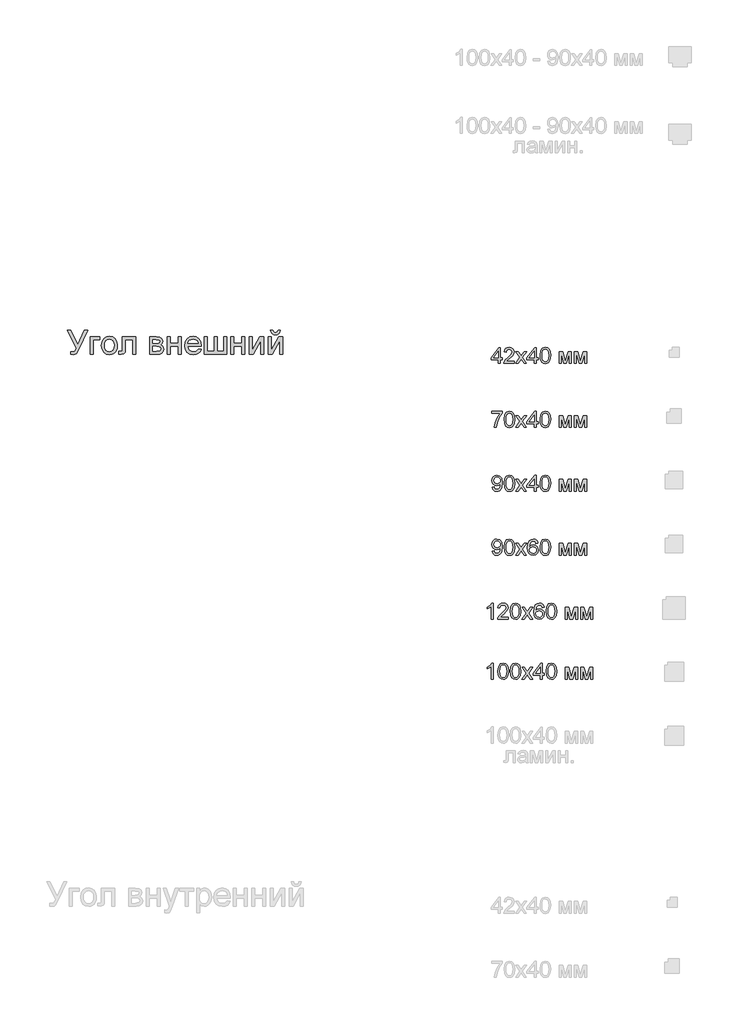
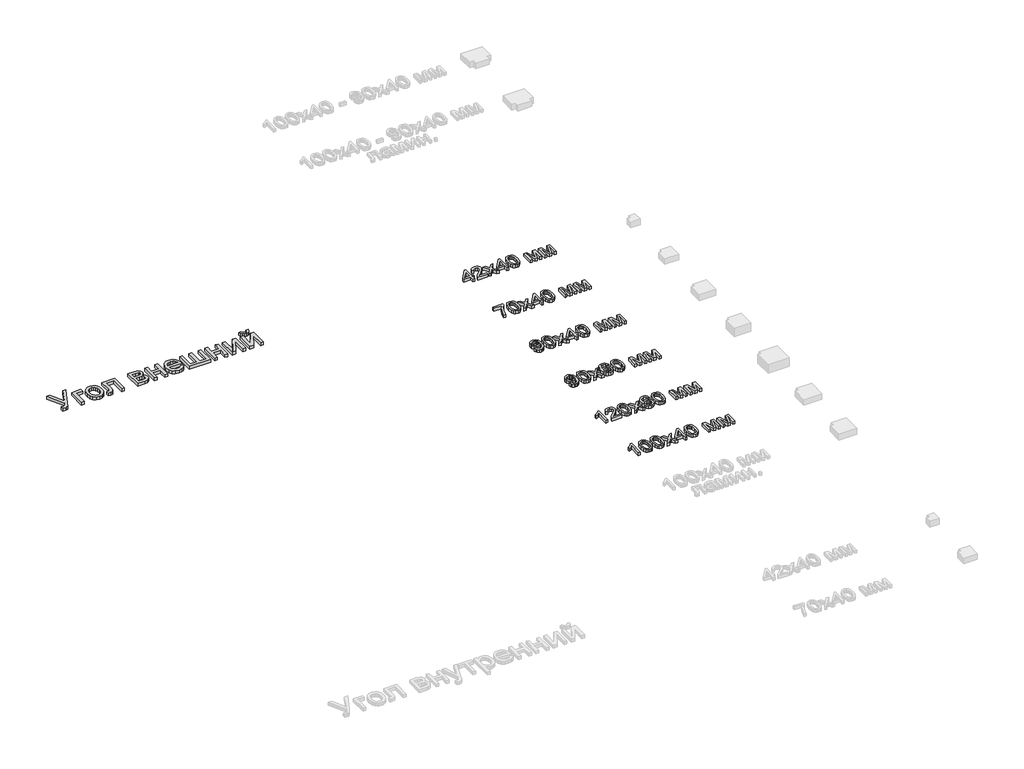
# One storey, part 13 of 21: 7 proxies.
"""IFC4 building model written with IfcOpenShell, lengths in millimetres."""

from ifc_helpers import new_model, si_unit, origin, origin_with_axes, place, context, project, spatial, polyline, outline, extrude, element, save

model = new_model("IFC4")

# Units and contexts
model_context = context("Model", 3, world=origin())
ifc_project = project(units=[si_unit("LENGTHUNIT", "METRE", prefix="MILLI")], contexts=[model_context])

# Site, building, storey
site = spatial("IfcSite", under=ifc_project)
building = spatial("IfcBuilding", under=site)
storey = spatial("IfcBuildingStorey", under=building, Name="Этаж 01", Elevation=0.0)

# Proxies
placement = place(None, origin())
element("IfcBuildingElementProxy", 1, Name="150 мм Arial", ObjectType="150 мм Arial", at=placement, inside=storey, context=model_context, shape_type="SweptSolid", body=[
    extrude(outline(polyline([(20095.0142303, -8551.5333187), (20115.8731394, -8551.5333187), (20160.9386838, -8640.7814907), (20201.4792797, -8551.5333187), (20222.1542478, -8551.5333187), (20164.9485976, -8668.9244633), (20149.3871892, -8697.7664118), (20142.0019581, -8702.8707744), (20131.9863708, -8704.5722287), (20115.0270108, -8702.2177839), (20115.0270108, -8685.7366705), (20129.8526552, -8685.7366705), (20140.8523269, -8681.5428158), (20151.0426582, -8662.4497402), (20095.0142303, -8551.5333187)])), origin_with_axes(), (0.0, 0.0, 1.0), 20.0),
    extrude(outline(polyline([(20237.4581388, -8591.5588798), (20298.6737028, -8591.5588798), (20298.6737028, -8610.3944379), (20256.293697, -8610.3944379), (20256.293697, -8702.2177839), (20237.4581388, -8702.2177839), (20237.4581388, -8591.5588798)])), origin_with_axes(), (0.0, 0.0, 1.0), 20.0),
    extrude(outline(polyline([(20308.0914819, -8646.8883318), (20312.165775, -8620.2076901), (20324.3886543, -8601.4549054), (20339.4902102, -8592.2670526), (20357.5716103, -8589.204435), (20377.3590631, -8592.9338387), (20393.1641933, -8604.1220499), (20403.52467, -8621.8861517), (20406.9781622, -8645.3432275), (20405.4514519, -8664.3719237), (20400.8713211, -8678.8572772), (20393.3711269, -8689.7051975), (20383.0842266, -8697.8215941), (20370.8659459, -8702.88457), (20357.5716103, -8704.5722287), (20337.5450342, -8700.8566205), (20321.758298, -8689.7097961), (20311.5081859, -8671.5732137), (20308.0914819, -8646.8883318)]), holes=[polyline([(20326.9270401, -8646.8515436), (20329.1067409, -8663.8982756), (20335.6458434, -8676.04298), (20345.4866867, -8683.3132479), (20357.5716103, -8685.7366705), (20369.6013515, -8683.2994523), (20379.4238008, -8675.9877977), (20385.9629032, -8663.6821449), (20388.1426041, -8646.2629324), (20385.9491077, -8629.7128412), (20379.3686185, -8617.7336837), (20369.5323736, -8610.4634158), (20357.5716103, -8608.0399931), (20345.4866867, -8610.4542187), (20335.6458434, -8617.6968955), (20329.1067409, -8629.8140087), (20326.9270401, -8646.8515436)])]), origin_with_axes(), (0.0, 0.0, 1.0), 20.0),
    extrude(outline(polyline([(20437.5859442, -8591.5588798), (20522.3459559, -8591.5588798), (20522.3459559, -8702.1074193), (20503.5103978, -8702.1074193), (20503.5103978, -8610.3944379), (20456.4215024, -8610.3944379), (20456.4215024, -8663.1855042), (20455.1523095, -8687.5392923), (20448.1809457, -8697.8215941), (20431.6998323, -8702.2177839), (20416.3959413, -8701.2612907), (20416.3959413, -8683.3822258), (20424.820439, -8683.3822258), (20433.3369072, -8682.2233975), (20436.7398156, -8678.5445775), (20437.5859442, -8662.1186464), (20437.5859442, -8591.5588798)])), origin_with_axes(), (0.0, 0.0, 1.0), 20.0),
    extrude(outline(polyline([(20609.4604124, -8591.5588798), (20650.9575014, -8591.5588798), (20673.7110028, -8594.0788714), (20686.5132963, -8603.3127095), (20691.8659793, -8619.4075468), (20688.6286177, -8632.4857517), (20678.8797449, -8641.8115603), (20691.5348855, -8652.0202857), (20696.5748688, -8669.7705919), (20693.3834925, -8684.1271868), (20685.7959264, -8694.2347446), (20673.7845792, -8700.2220241), (20657.3218599, -8702.2177839), (20609.4604124, -8702.2177839), (20609.4604124, -8591.5588798)]), holes=[polyline([(20628.2959705, -8683.3822258), (20651.3989598, -8683.3822258), (20671.8899869, -8679.9793173), (20676.1298269, -8675.3394056), (20677.7393107, -8668.2254876), (20674.5203432, -8659.1571964), (20666.1326337, -8653.8780897), (20649.5595498, -8652.7744438), (20628.2959705, -8652.7744438), (20628.2959705, -8683.3822258)]), polyline([(20628.2959705, -8633.9388856), (20646.9107995, -8633.9388856), (20662.2698728, -8632.9823924), (20669.7378773, -8629.1564197), (20673.0304211, -8622.2402382), (20671.5864843, -8616.6208407), (20667.2546738, -8613.0064001), (20647.4994107, -8610.3944379), (20628.2959705, -8610.3944379), (20628.2959705, -8633.9388856)])]), origin_with_axes(), (0.0, 0.0, 1.0), 20.0),
    extrude(outline(polyline([(20720.1193165, -8591.5588798), (20738.9548747, -8591.5588798), (20738.9548747, -8633.9388856), (20788.3982148, -8633.9388856), (20788.3982148, -8591.5588798), (20807.233773, -8591.5588798), (20807.233773, -8702.2177839), (20788.3982148, -8702.2177839), (20788.3982148, -8652.7744438), (20738.9548747, -8652.7744438), (20738.9548747, -8702.2177839), (20720.1193165, -8702.2177839), (20720.1193165, -8591.5588798)])), origin_with_axes(), (0.0, 0.0, 1.0), 20.0),
    extrude(outline(polyline([(20912.9630584, -8669.2555571), (20931.4307345, -8671.6100019), (20924.776669, -8685.5251384), (20914.1586749, -8695.9270018), (20899.8158756, -8702.410922), (20881.9873944, -8704.5722287), (20859.8868835, -8700.842825), (20842.8815383, -8689.6546138), (20832.0382165, -8671.7341621), (20828.4237759, -8647.8080368), (20832.0750047, -8623.0771697), (20843.0286911, -8604.5819024), (20859.8041101, -8593.0488018), (20880.9205366, -8589.204435), (20901.3793741, -8593.0396048), (20917.7271302, -8604.5451142), (20928.4462919, -8623.0035933), (20932.0193457, -8647.6976722), (20931.9089811, -8652.7744438), (20847.259334, -8652.7744438), (20850.5196882, -8666.8735212), (20858.0934588, -8677.2385964), (20869.0241526, -8683.612152), (20882.3552764, -8685.7366705), (20900.8229525, -8681.8003332), (20912.9630584, -8669.2555571)]), holes=[polyline([(20847.259334, -8633.9388856), (20913.1837876, -8633.9388856), (20910.6362048, -8623.9876776), (20905.6422067, -8616.869161), (20894.6609291, -8610.2472851), (20880.8469602, -8608.0399931), (20868.1504328, -8609.8012282), (20857.6520004, -8615.0849334), (20850.3541413, -8623.3208915), (20847.259334, -8633.9388856)])]), origin_with_axes(), (0.0, 0.0, 1.0), 20.0),
    extrude(outline(polyline([(20950.8549039, -8591.5588798), (20969.690462, -8591.5588798), (20969.690462, -8683.3822258), (21012.0704679, -8683.3822258), (21012.0704679, -8591.5588798), (21030.906026, -8591.5588798), (21030.906026, -8683.3822258), (21073.2860319, -8683.3822258), (21073.2860319, -8591.5588798), (21092.12159, -8591.5588798), (21092.12159, -8702.2177839), (20950.8549039, -8702.2177839), (20950.8549039, -8591.5588798)])), origin_with_axes(), (0.0, 0.0, 1.0), 20.0),
    extrude(outline(polyline([(21118.0204825, -8591.5588798), (21136.8560406, -8591.5588798), (21136.8560406, -8633.9388856), (21186.2993808, -8633.9388856), (21186.2993808, -8591.5588798), (21205.134939, -8591.5588798), (21205.134939, -8702.2177839), (21186.2993808, -8702.2177839), (21186.2993808, -8652.7744438), (21136.8560406, -8652.7744438), (21136.8560406, -8702.2177839), (21118.0204825, -8702.2177839), (21118.0204825, -8591.5588798)])), origin_with_axes(), (0.0, 0.0, 1.0), 20.0),
    extrude(outline(polyline([(21233.3882762, -8591.5588798), (21252.2238343, -8591.5588798), (21252.2238343, -8675.9510095), (21298.5033893, -8591.5588798), (21322.8571774, -8591.5588798), (21322.8571774, -8702.2177839), (21304.0216193, -8702.2177839), (21304.0216193, -8618.340689), (21258.0363699, -8702.2177839), (21233.3882762, -8702.2177839), (21233.3882762, -8591.5588798)])), origin_with_axes(), (0.0, 0.0, 1.0), 20.0),
    extrude(outline(polyline([(21351.1105146, -8591.5588798), (21369.9460728, -8591.5588798), (21369.9460728, -8675.9510095), (21416.2256278, -8591.5588798), (21440.5794159, -8591.5588798), (21440.5794159, -8702.2177839), (21421.7438577, -8702.2177839), (21421.7438577, -8618.340689), (21375.7586083, -8702.2177839), (21351.1105146, -8702.2177839), (21351.1105146, -8591.5588798)])), origin_with_axes(), (0.0, 0.0, 1.0), 20.0),
    extrude(outline(polyline([(21412.3260786, -8551.5333187), (21426.4527472, -8551.5333187), (21423.4131223, -8563.5952496), (21417.3108797, -8572.4841983), (21408.421931, -8577.9610415), (21397.0221876, -8579.7866559), (21384.6521555, -8577.9748371), (21375.0596325, -8572.5393806), (21368.502136, -8563.6642275), (21365.2371833, -8551.5333187), (21379.3638519, -8551.5333187), (21384.6613526, -8562.1467142), (21395.3299305, -8565.6599873), (21407.0285779, -8562.2570788), (21412.3260786, -8551.5333187)])), origin_with_axes(), (0.0, 0.0, 1.0), 20.0),
])
element("IfcBuildingElementProxy", 2, Name="100 мм Arial", ObjectType="100 мм Arial", at=placement, inside=storey, context=model_context, shape_type="SweptSolid", body=[
    extrude(outline(polyline([(22790.6701918, -8758.4621169), (22790.6701918, -8734.9176692), (22745.1509262, -8734.9176692), (22745.1509262, -8722.3606304), (22793.8094515, -8659.5754366), (22803.2272305, -8659.5754366), (22803.2272305, -8722.3606304), (22815.7842693, -8722.3606304), (22815.7842693, -8734.9176692), (22803.2272305, -8734.9176692), (22803.2272305, -8758.4621169), (22790.6701918, -8758.4621169)]), holes=[polyline([(22790.6701918, -8722.3606304), (22790.6701918, -8683.5613426), (22760.60197, -8722.3606304), (22790.6701918, -8722.3606304)])]), origin_with_axes(), (0.0, 0.0, 1.0), 20.0),
    extrude(outline(polyline([(22891.1265019, -8745.9050781), (22891.1265019, -8758.4621169), (22825.2020484, -8758.4621169), (22826.550949, -8749.8046272), (22834.1783691, -8736.4750363), (22849.899193, -8721.919172), (22871.5797052, -8700.9989492), (22876.9998333, -8686.7741787), (22871.8862736, -8675.2594723), (22858.5321571, -8670.5628455), (22844.613955, -8675.1491077), (22839.328717, -8687.8287738), (22826.7716782, -8686.2591439), (22829.8159017, -8674.1129067), (22836.3979238, -8665.2408193), (22846.1743878, -8659.8145599), (22858.8019373, -8658.0058067), (22871.5214573, -8660.016895), (22881.2795272, -8666.0501597), (22887.4875358, -8675.0632686), (22889.5568721, -8686.0138893), (22887.3250546, -8697.9210032), (22879.9061011, -8710.2327873), (22861.9166715, -8727.4374019), (22847.4711718, -8739.5161941), (22841.8057891, -8745.9050781), (22891.1265019, -8745.9050781)])), origin_with_axes(), (0.0, 0.0, 1.0), 20.0),
    extrude(outline(polyline([(22898.9746511, -8758.4621169), (22925.8055113, -8721.3796118), (22900.544281, -8684.6895141), (22915.6519683, -8684.6895141), (22927.841125, -8702.3478499), (22933.5310332, -8710.6865084), (22938.460652, -8703.8684288), (22952.3420659, -8684.6895141), (22967.4497532, -8684.6895141), (22940.9131986, -8721.3796118), (22966.4687345, -8758.4621169), (22951.3610473, -8758.4621169), (22935.9835799, -8736.168468), (22933.1631512, -8732.0972405), (22914.0823384, -8758.4621169), (22898.9746511, -8758.4621169)])), origin_with_axes(), (0.0, 0.0, 1.0), 20.0),
    extrude(outline(polyline([(23015.1272598, -8758.4621169), (23015.1272598, -8734.9176692), (22969.6079942, -8734.9176692), (22969.6079942, -8722.3606304), (23018.2665194, -8659.5754366), (23027.6842985, -8659.5754366), (23027.6842985, -8722.3606304), (23040.2413373, -8722.3606304), (23040.2413373, -8734.9176692), (23027.6842985, -8734.9176692), (23027.6842985, -8758.4621169), (23015.1272598, -8758.4621169)]), holes=[polyline([(23015.1272598, -8722.3606304), (23015.1272598, -8683.5613426), (22985.059038, -8722.3606304), (23015.1272598, -8722.3606304)])]), origin_with_axes(), (0.0, 0.0, 1.0), 20.0),
    extrude(outline(polyline([(23051.2287462, -8709.0433022), (23054.9198289, -8680.1400401), (23065.8827124, -8663.4749857), (23084.190973, -8658.0058067), (23098.8572019, -8661.2431683), (23108.9862195, -8670.5751082), (23114.8723314, -8685.4375408), (23117.1531998, -8709.0433022), (23113.4989053, -8737.8239369), (23102.57281, -8754.5257795), (23094.3414504, -8758.6552549), (23084.190973, -8760.0317467), (23071.1434249, -8757.6405137), (23061.2351365, -8750.4668148), (23053.7303438, -8733.476798), (23051.2287462, -8709.0433022)]), holes=[polyline([(23063.785785, -8709.0187767), (23065.257313, -8728.7709742), (23069.6718969, -8740.2029072), (23076.2447219, -8745.6567578), (23084.190973, -8747.4747079), (23092.1372241, -8745.6506264), (23098.7100491, -8740.1783817), (23103.124633, -8728.7403173), (23104.596161, -8709.0187767), (23103.1736839, -8689.7111033), (23098.9062528, -8678.1902655), (23092.3456905, -8672.4697005), (23084.0438202, -8670.5628455), (23076.1834082, -8672.2428399), (23069.8681006, -8677.2828233), (23065.3063639, -8689.521031), (23063.785785, -8709.0187767)])]), origin_with_axes(), (0.0, 0.0, 1.0), 20.0),
    extrude(outline(polyline([(23170.5206145, -8684.6895141), (23192.1275504, -8684.6895141), (23208.780342, -8743.7468371), (23226.7329834, -8684.6895141), (23247.432477, -8684.6895141), (23247.432477, -8758.4621169), (23234.8754382, -8758.4621169), (23234.8754382, -8699.0614374), (23216.824695, -8758.4621169), (23200.3435816, -8758.4621169), (23183.0776533, -8696.2164833), (23183.0776533, -8758.4621169), (23170.5206145, -8758.4621169), (23170.5206145, -8684.6895141)])), origin_with_axes(), (0.0, 0.0, 1.0), 20.0),
    extrude(outline(polyline([(23266.2680351, -8684.6895141), (23287.874971, -8684.6895141), (23304.5277626, -8743.7468371), (23322.480404, -8684.6895141), (23343.1798976, -8684.6895141), (23343.1798976, -8758.4621169), (23330.6228588, -8758.4621169), (23330.6228588, -8699.0614374), (23312.5721156, -8758.4621169), (23296.0910022, -8758.4621169), (23278.8250739, -8696.2164833), (23278.8250739, -8758.4621169), (23266.2680351, -8758.4621169), (23266.2680351, -8684.6895141)])), origin_with_axes(), (0.0, 0.0, 1.0), 20.0),
])
element("IfcBuildingElementProxy", 3, Name="100 мм Arial", ObjectType="100 мм Arial", at=placement, inside=storey, context=model_context, shape_type="SweptSolid", body=[
    extrude(outline(polyline([(22749.8598158, -9072.1324753), (22749.8598158, -9059.5754366), (22815.7842693, -9059.5754366), (22815.7842693, -9069.7289796), (22797.0836012, -9096.7437808), (22782.7729916, -9131.1652728), (22778.113153, -9158.4621169), (22765.5561142, -9158.4621169), (22770.5470466, -9130.1352032), (22784.2445196, -9098.1172069), (22803.2272305, -9072.1324753), (22749.8598158, -9072.1324753)])), origin_with_axes(), (0.0, 0.0, 1.0), 20.0),
    extrude(outline(polyline([(22826.7716782, -9109.0433022), (22830.4627609, -9080.1400401), (22841.4256444, -9063.4749857), (22859.733905, -9058.0058067), (22874.4001339, -9061.2431683), (22884.5291515, -9070.5751082), (22890.4152634, -9085.4375408), (22892.6961318, -9109.0433022), (22889.0418373, -9137.8239369), (22878.115742, -9154.5257795), (22869.8843824, -9158.6552549), (22859.733905, -9160.0317467), (22846.6863569, -9157.6405137), (22836.7780685, -9150.4668148), (22829.2732758, -9133.476798), (22826.7716782, -9109.0433022)]), holes=[polyline([(22839.328717, -9109.0187767), (22840.800245, -9128.7709742), (22845.2148289, -9140.2029072), (22851.7876539, -9145.6567578), (22859.733905, -9147.4747079), (22867.6801561, -9145.6506264), (22874.2529811, -9140.1783817), (22878.667565, -9128.7403173), (22880.139093, -9109.0187767), (22878.7166159, -9089.7111033), (22874.4491848, -9078.1902655), (22867.8886226, -9072.4697005), (22859.5867522, -9070.5628455), (22851.7263402, -9072.2428399), (22845.4110326, -9077.2828233), (22840.8492959, -9089.521031), (22839.328717, -9109.0187767)])]), origin_with_axes(), (0.0, 0.0, 1.0), 20.0),
    extrude(outline(polyline([(22898.9746511, -9158.4621169), (22925.8055113, -9121.3796118), (22900.544281, -9084.6895141), (22915.6519683, -9084.6895141), (22927.841125, -9102.3478499), (22933.5310332, -9110.6865084), (22938.460652, -9103.8684288), (22952.3420659, -9084.6895141), (22967.4497532, -9084.6895141), (22940.9131986, -9121.3796118), (22966.4687345, -9158.4621169), (22951.3610473, -9158.4621169), (22935.9835799, -9136.168468), (22933.1631512, -9132.0972405), (22914.0823384, -9158.4621169), (22898.9746511, -9158.4621169)])), origin_with_axes(), (0.0, 0.0, 1.0), 20.0),
    extrude(outline(polyline([(23015.1272598, -9158.4621169), (23015.1272598, -9134.9176692), (22969.6079942, -9134.9176692), (22969.6079942, -9122.3606304), (23018.2665194, -9059.5754366), (23027.6842985, -9059.5754366), (23027.6842985, -9122.3606304), (23040.2413373, -9122.3606304), (23040.2413373, -9134.9176692), (23027.6842985, -9134.9176692), (23027.6842985, -9158.4621169), (23015.1272598, -9158.4621169)]), holes=[polyline([(23015.1272598, -9122.3606304), (23015.1272598, -9083.5613426), (22985.059038, -9122.3606304), (23015.1272598, -9122.3606304)])]), origin_with_axes(), (0.0, 0.0, 1.0), 20.0),
    extrude(outline(polyline([(23051.2287462, -9109.0433022), (23054.9198289, -9080.1400401), (23065.8827124, -9063.4749857), (23084.190973, -9058.0058067), (23098.8572019, -9061.2431683), (23108.9862195, -9070.5751082), (23114.8723314, -9085.4375408), (23117.1531998, -9109.0433022), (23113.4989053, -9137.8239369), (23102.57281, -9154.5257795), (23094.3414504, -9158.6552549), (23084.190973, -9160.0317467), (23071.1434249, -9157.6405137), (23061.2351365, -9150.4668148), (23053.7303438, -9133.476798), (23051.2287462, -9109.0433022)]), holes=[polyline([(23063.785785, -9109.0187767), (23065.257313, -9128.7709742), (23069.6718969, -9140.2029072), (23076.2447219, -9145.6567578), (23084.190973, -9147.4747079), (23092.1372241, -9145.6506264), (23098.7100491, -9140.1783817), (23103.124633, -9128.7403173), (23104.596161, -9109.0187767), (23103.1736839, -9089.7111033), (23098.9062528, -9078.1902655), (23092.3456905, -9072.4697005), (23084.0438202, -9070.5628455), (23076.1834082, -9072.2428399), (23069.8681006, -9077.2828233), (23065.3063639, -9089.521031), (23063.785785, -9109.0187767)])]), origin_with_axes(), (0.0, 0.0, 1.0), 20.0),
    extrude(outline(polyline([(23170.5206145, -9084.6895141), (23192.1275504, -9084.6895141), (23208.780342, -9143.7468371), (23226.7329834, -9084.6895141), (23247.432477, -9084.6895141), (23247.432477, -9158.4621169), (23234.8754382, -9158.4621169), (23234.8754382, -9099.0614374), (23216.824695, -9158.4621169), (23200.3435816, -9158.4621169), (23183.0776533, -9096.2164833), (23183.0776533, -9158.4621169), (23170.5206145, -9158.4621169), (23170.5206145, -9084.6895141)])), origin_with_axes(), (0.0, 0.0, 1.0), 20.0),
    extrude(outline(polyline([(23266.2680351, -9084.6895141), (23287.874971, -9084.6895141), (23304.5277626, -9143.7468371), (23322.480404, -9084.6895141), (23343.1798976, -9084.6895141), (23343.1798976, -9158.4621169), (23330.6228588, -9158.4621169), (23330.6228588, -9099.0614374), (23312.5721156, -9158.4621169), (23296.0910022, -9158.4621169), (23278.8250739, -9096.2164833), (23278.8250739, -9158.4621169), (23266.2680351, -9158.4621169), (23266.2680351, -9084.6895141)])), origin_with_axes(), (0.0, 0.0, 1.0), 20.0),
])
element("IfcBuildingElementProxy", 4, Name="100 мм Arial", ObjectType="100 мм Arial", at=placement, inside=storey, context=model_context, shape_type="SweptSolid", body=[
    extrude(outline(polyline([(22751.4294456, -9533.3480393), (22763.9864844, -9531.7784095), (22769.6273416, -9543.7590998), (22780.320445, -9547.4747079), (22790.4862508, -9545.083475), (22797.3779068, -9538.694591), (22801.4859224, -9527.7807585), (22803.3008069, -9513.2126315), (22803.2272305, -9510.7600848), (22793.1840521, -9520.2759658), (22779.4130027, -9523.9302603), (22767.9626756, -9521.6984428), (22758.4314663, -9515.0029905), (22752.0027284, -9504.6593751), (22749.8598158, -9491.4830683), (22752.1069616, -9477.8714345), (22758.8483992, -9467.2028566), (22768.9743511, -9460.3050692), (22781.37504, -9458.0058067), (22799.2663677, -9463.2542565), (22811.5781518, -9478.214791), (22815.7842693, -9506.3209754), (22811.5904146, -9536.8183928), (22806.3756873, -9546.8094547), (22799.1192149, -9554.0965839), (22790.1336972, -9558.547956), (22779.7318338, -9560.0317467), (22768.9958109, -9558.2812416), (22760.4302918, -9553.0297261), (22754.4399466, -9544.6082941), (22751.4294456, -9533.3480393)]), holes=[polyline([(22803.2272305, -9491.1887627), (22801.8721985, -9482.6784259), (22797.8071025, -9476.1301263), (22791.4979263, -9471.9546657), (22783.4106537, -9470.5628455), (22775.0229442, -9472.0619646), (22768.3029665, -9476.559322), (22763.8883825, -9483.441781), (22762.4168545, -9492.0962049), (22763.8086748, -9499.8554494), (22767.9841354, -9506.0144071), (22774.5385663, -9510.0335179), (22783.0672972, -9511.3732215), (22797.5495851, -9506.0144071), (22801.8078192, -9499.6285888), (22803.2272305, -9491.1887627)])]), origin_with_axes(), (0.0, 0.0, 1.0), 20.0),
    extrude(outline(polyline([(22826.7716782, -9509.0433022), (22830.4627609, -9480.1400401), (22841.4256444, -9463.4749857), (22859.733905, -9458.0058067), (22874.4001339, -9461.2431683), (22884.5291515, -9470.5751082), (22890.4152634, -9485.4375408), (22892.6961318, -9509.0433022), (22889.0418373, -9537.8239369), (22878.115742, -9554.5257795), (22869.8843824, -9558.6552549), (22859.733905, -9560.0317467), (22846.6863569, -9557.6405137), (22836.7780685, -9550.4668148), (22829.2732758, -9533.476798), (22826.7716782, -9509.0433022)]), holes=[polyline([(22839.328717, -9509.0187767), (22840.800245, -9528.7709742), (22845.2148289, -9540.2029072), (22851.7876539, -9545.6567578), (22859.733905, -9547.4747079), (22867.6801561, -9545.6506264), (22874.2529811, -9540.1783817), (22878.667565, -9528.7403173), (22880.139093, -9509.0187767), (22878.7166159, -9489.7111033), (22874.4491848, -9478.1902655), (22867.8886226, -9472.4697005), (22859.5867522, -9470.5628455), (22851.7263402, -9472.2428399), (22845.4110326, -9477.2828233), (22840.8492959, -9489.521031), (22839.328717, -9509.0187767)])]), origin_with_axes(), (0.0, 0.0, 1.0), 20.0),
    extrude(outline(polyline([(22898.9746511, -9558.4621169), (22925.8055113, -9521.3796118), (22900.544281, -9484.6895141), (22915.6519683, -9484.6895141), (22927.841125, -9502.3478499), (22933.5310332, -9510.6865084), (22938.460652, -9503.8684288), (22952.3420659, -9484.6895141), (22967.4497532, -9484.6895141), (22940.9131986, -9521.3796118), (22966.4687345, -9558.4621169), (22951.3610473, -9558.4621169), (22935.9835799, -9536.168468), (22933.1631512, -9532.0972405), (22914.0823384, -9558.4621169), (22898.9746511, -9558.4621169)])), origin_with_axes(), (0.0, 0.0, 1.0), 20.0),
    extrude(outline(polyline([(23015.1272598, -9558.4621169), (23015.1272598, -9534.9176692), (22969.6079942, -9534.9176692), (22969.6079942, -9522.3606304), (23018.2665194, -9459.5754366), (23027.6842985, -9459.5754366), (23027.6842985, -9522.3606304), (23040.2413373, -9522.3606304), (23040.2413373, -9534.9176692), (23027.6842985, -9534.9176692), (23027.6842985, -9558.4621169), (23015.1272598, -9558.4621169)]), holes=[polyline([(23015.1272598, -9522.3606304), (23015.1272598, -9483.5613426), (22985.059038, -9522.3606304), (23015.1272598, -9522.3606304)])]), origin_with_axes(), (0.0, 0.0, 1.0), 20.0),
    extrude(outline(polyline([(23051.2287462, -9509.0433022), (23054.9198289, -9480.1400401), (23065.8827124, -9463.4749857), (23084.190973, -9458.0058067), (23098.8572019, -9461.2431683), (23108.9862195, -9470.5751082), (23114.8723314, -9485.4375408), (23117.1531998, -9509.0433022), (23113.4989053, -9537.8239369), (23102.57281, -9554.5257795), (23094.3414504, -9558.6552549), (23084.190973, -9560.0317467), (23071.1434249, -9557.6405137), (23061.2351365, -9550.4668148), (23053.7303438, -9533.476798), (23051.2287462, -9509.0433022)]), holes=[polyline([(23063.785785, -9509.0187767), (23065.257313, -9528.7709742), (23069.6718969, -9540.2029072), (23076.2447219, -9545.6567578), (23084.190973, -9547.4747079), (23092.1372241, -9545.6506264), (23098.7100491, -9540.1783817), (23103.124633, -9528.7403173), (23104.596161, -9509.0187767), (23103.1736839, -9489.7111033), (23098.9062528, -9478.1902655), (23092.3456905, -9472.4697005), (23084.0438202, -9470.5628455), (23076.1834082, -9472.2428399), (23069.8681006, -9477.2828233), (23065.3063639, -9489.521031), (23063.785785, -9509.0187767)])]), origin_with_axes(), (0.0, 0.0, 1.0), 20.0),
    extrude(outline(polyline([(23170.5206145, -9484.6895141), (23192.1275504, -9484.6895141), (23208.780342, -9543.7468371), (23226.7329834, -9484.6895141), (23247.432477, -9484.6895141), (23247.432477, -9558.4621169), (23234.8754382, -9558.4621169), (23234.8754382, -9499.0614374), (23216.824695, -9558.4621169), (23200.3435816, -9558.4621169), (23183.0776533, -9496.2164833), (23183.0776533, -9558.4621169), (23170.5206145, -9558.4621169), (23170.5206145, -9484.6895141)])), origin_with_axes(), (0.0, 0.0, 1.0), 20.0),
    extrude(outline(polyline([(23266.2680351, -9484.6895141), (23287.874971, -9484.6895141), (23304.5277626, -9543.7468371), (23322.480404, -9484.6895141), (23343.1798976, -9484.6895141), (23343.1798976, -9558.4621169), (23330.6228588, -9558.4621169), (23330.6228588, -9499.0614374), (23312.5721156, -9558.4621169), (23296.0910022, -9558.4621169), (23278.8250739, -9496.2164833), (23278.8250739, -9558.4621169), (23266.2680351, -9558.4621169), (23266.2680351, -9484.6895141)])), origin_with_axes(), (0.0, 0.0, 1.0), 20.0),
])
element("IfcBuildingElementProxy", 5, Name="100 мм Arial", ObjectType="100 мм Arial", at=placement, inside=storey, context=model_context, shape_type="SweptSolid", body=[
    extrude(outline(polyline([(22751.4294456, -9933.3480393), (22763.9864844, -9931.7784095), (22769.6273416, -9943.7590998), (22780.320445, -9947.4747079), (22790.4862508, -9945.083475), (22797.3779068, -9938.694591), (22801.4859224, -9927.7807585), (22803.3008069, -9913.2126315), (22803.2272305, -9910.7600848), (22793.1840521, -9920.2759658), (22779.4130027, -9923.9302603), (22767.9626756, -9921.6984428), (22758.4314663, -9915.0029905), (22752.0027284, -9904.6593751), (22749.8598158, -9891.4830683), (22752.1069616, -9877.8714345), (22758.8483992, -9867.2028566), (22768.9743511, -9860.3050692), (22781.37504, -9858.0058067), (22799.2663677, -9863.2542565), (22811.5781518, -9878.214791), (22815.7842693, -9906.3209754), (22811.5904146, -9936.8183928), (22806.3756873, -9946.8094547), (22799.1192149, -9954.0965839), (22790.1336972, -9958.547956), (22779.7318338, -9960.0317467), (22768.9958109, -9958.2812416), (22760.4302918, -9953.0297261), (22754.4399466, -9944.6082941), (22751.4294456, -9933.3480393)]), holes=[polyline([(22803.2272305, -9891.1887627), (22801.8721985, -9882.6784259), (22797.8071025, -9876.1301263), (22791.4979263, -9871.9546657), (22783.4106537, -9870.5628455), (22775.0229442, -9872.0619646), (22768.3029665, -9876.559322), (22763.8883825, -9883.441781), (22762.4168545, -9892.0962049), (22763.8086748, -9899.8554494), (22767.9841354, -9906.0144071), (22774.5385663, -9910.0335179), (22783.0672972, -9911.3732215), (22797.5495851, -9906.0144071), (22801.8078192, -9899.6285888), (22803.2272305, -9891.1887627)])]), origin_with_axes(), (0.0, 0.0, 1.0), 20.0),
    extrude(outline(polyline([(22826.7716782, -9909.0433022), (22830.4627609, -9880.1400401), (22841.4256444, -9863.4749857), (22859.733905, -9858.0058067), (22874.4001339, -9861.2431683), (22884.5291515, -9870.5751082), (22890.4152634, -9885.4375408), (22892.6961318, -9909.0433022), (22889.0418373, -9937.8239369), (22878.115742, -9954.5257795), (22869.8843824, -9958.6552549), (22859.733905, -9960.0317467), (22846.6863569, -9957.6405137), (22836.7780685, -9950.4668148), (22829.2732758, -9933.476798), (22826.7716782, -9909.0433022)]), holes=[polyline([(22839.328717, -9909.0187767), (22840.800245, -9928.7709742), (22845.2148289, -9940.2029072), (22851.7876539, -9945.6567578), (22859.733905, -9947.4747079), (22867.6801561, -9945.6506264), (22874.2529811, -9940.1783817), (22878.667565, -9928.7403173), (22880.139093, -9909.0187767), (22878.7166159, -9889.7111033), (22874.4491848, -9878.1902655), (22867.8886226, -9872.4697005), (22859.5867522, -9870.5628455), (22851.7263402, -9872.2428399), (22845.4110326, -9877.2828233), (22840.8492959, -9889.521031), (22839.328717, -9909.0187767)])]), origin_with_axes(), (0.0, 0.0, 1.0), 20.0),
    extrude(outline(polyline([(22898.9746511, -9958.4621169), (22925.8055113, -9921.3796118), (22900.544281, -9884.6895141), (22915.6519683, -9884.6895141), (22927.841125, -9902.3478499), (22933.5310332, -9910.6865084), (22938.460652, -9903.8684288), (22952.3420659, -9884.6895141), (22967.4497532, -9884.6895141), (22940.9131986, -9921.3796118), (22966.4687345, -9958.4621169), (22951.3610473, -9958.4621169), (22935.9835799, -9936.168468), (22933.1631512, -9932.0972405), (22914.0823384, -9958.4621169), (22898.9746511, -9958.4621169)])), origin_with_axes(), (0.0, 0.0, 1.0), 20.0),
    extrude(outline(polyline([(23038.6717074, -9884.6895141), (23026.1146687, -9886.2591439), (23021.3567282, -9875.7867698), (23008.775164, -9870.5628455), (22997.4443985, -9873.6040033), (22988.872748, -9885.0206079), (22985.3042927, -9907.4000959), (22996.3775407, -9897.3814429), (23010.0995392, -9894.1072932), (23021.7000847, -9896.345242), (23031.4366949, -9903.0590884), (23038.0401767, -9913.3168647), (23040.2413373, -9926.1866032), (23036.0965335, -9943.5138451), (23024.6921916, -9955.7765783), (23008.2356037, -9960.0317467), (22993.9893734, -9957.2113181), (22982.6432796, -9948.7500322), (22975.2212603, -9933.8140232), (22972.7472539, -9911.5694252), (22975.4941061, -9886.5595809), (22983.7346628, -9869.4591995), (22994.9857205, -9860.8691549), (23009.5599789, -9858.0058067), (23020.5780447, -9859.7777717), (23029.4010812, -9865.0936665), (23035.5814987, -9873.5365583), (23038.6717074, -9884.6895141)]), holes=[polyline([(22985.3042927, -9925.9903994), (22988.2105604, -9936.8674438), (22995.9360823, -9944.7646439), (23007.2545851, -9947.4747079), (23015.541127, -9946.070625), (23022.055704, -9941.8583762), (23026.2771499, -9935.2365002), (23027.6842985, -9926.6035361), (23026.295544, -9918.3169941), (23022.1292804, -9911.9986209), (23015.5043388, -9907.9979042), (23006.7395503, -9906.6643319), (22991.5460239, -9911.9986209), (22986.8647255, -9918.16371), (22985.3042927, -9925.9903994)])]), origin_with_axes(), (0.0, 0.0, 1.0), 20.0),
    extrude(outline(polyline([(23051.2287462, -9909.0433022), (23054.9198289, -9880.1400401), (23065.8827124, -9863.4749857), (23084.190973, -9858.0058067), (23098.8572019, -9861.2431683), (23108.9862195, -9870.5751082), (23114.8723314, -9885.4375408), (23117.1531998, -9909.0433022), (23113.4989053, -9937.8239369), (23102.57281, -9954.5257795), (23094.3414504, -9958.6552549), (23084.190973, -9960.0317467), (23071.1434249, -9957.6405137), (23061.2351365, -9950.4668148), (23053.7303438, -9933.476798), (23051.2287462, -9909.0433022)]), holes=[polyline([(23063.785785, -9909.0187767), (23065.257313, -9928.7709742), (23069.6718969, -9940.2029072), (23076.2447219, -9945.6567578), (23084.190973, -9947.4747079), (23092.1372241, -9945.6506264), (23098.7100491, -9940.1783817), (23103.124633, -9928.7403173), (23104.596161, -9909.0187767), (23103.1736839, -9889.7111033), (23098.9062528, -9878.1902655), (23092.3456905, -9872.4697005), (23084.0438202, -9870.5628455), (23076.1834082, -9872.2428399), (23069.8681006, -9877.2828233), (23065.3063639, -9889.521031), (23063.785785, -9909.0187767)])]), origin_with_axes(), (0.0, 0.0, 1.0), 20.0),
    extrude(outline(polyline([(23170.5206145, -9884.6895141), (23192.1275504, -9884.6895141), (23208.780342, -9943.7468371), (23226.7329834, -9884.6895141), (23247.432477, -9884.6895141), (23247.432477, -9958.4621169), (23234.8754382, -9958.4621169), (23234.8754382, -9899.0614374), (23216.824695, -9958.4621169), (23200.3435816, -9958.4621169), (23183.0776533, -9896.2164833), (23183.0776533, -9958.4621169), (23170.5206145, -9958.4621169), (23170.5206145, -9884.6895141)])), origin_with_axes(), (0.0, 0.0, 1.0), 20.0),
    extrude(outline(polyline([(23266.2680351, -9884.6895141), (23287.874971, -9884.6895141), (23304.5277626, -9943.7468371), (23322.480404, -9884.6895141), (23343.1798976, -9884.6895141), (23343.1798976, -9958.4621169), (23330.6228588, -9958.4621169), (23330.6228588, -9899.0614374), (23312.5721156, -9958.4621169), (23296.0910022, -9958.4621169), (23278.8250739, -9896.2164833), (23278.8250739, -9958.4621169), (23266.2680351, -9958.4621169), (23266.2680351, -9884.6895141)])), origin_with_axes(), (0.0, 0.0, 1.0), 20.0),
])
element("IfcBuildingElementProxy", 6, Name="100 мм Arial", ObjectType="100 мм Arial", at=placement, inside=storey, context=model_context, shape_type="SweptSolid", body=[
    extrude(outline(polyline([(22758.4927799, -10358.4621169), (22745.9357412, -10358.4621169), (22745.9357412, -10280.1768283), (22734.04089, -10288.6503769), (22720.8216636, -10294.99021), (22720.8216636, -10283.1198843), (22739.2280261, -10271.3721859), (22750.399376, -10258.0058067), (22758.4927799, -10258.0058067), (22758.4927799, -10358.4621169)])), origin_with_axes(), (0.0, 0.0, 1.0), 20.0),
    extrude(outline(polyline([(22852.6705707, -10345.9050781), (22852.6705707, -10358.4621169), (22786.7461171, -10358.4621169), (22788.0950178, -10349.8046272), (22795.7224378, -10336.4750363), (22811.4432618, -10321.919172), (22833.123774, -10300.9989492), (22838.5439021, -10286.7741787), (22833.4303423, -10275.2594723), (22820.0762259, -10270.5628455), (22806.1580238, -10275.1491077), (22800.8727858, -10287.8287738), (22788.315747, -10286.2591439), (22791.3599705, -10274.1129067), (22797.9419925, -10265.2408193), (22807.7184566, -10259.8145599), (22820.346006, -10258.0058067), (22833.065526, -10260.016895), (22842.8235959, -10266.0501597), (22849.0316046, -10275.0632686), (22851.1009408, -10286.0138893), (22848.8691234, -10297.9210032), (22841.4501698, -10310.2327873), (22823.4607403, -10327.4374019), (22809.0152406, -10339.5161941), (22803.3498579, -10345.9050781), (22852.6705707, -10345.9050781)])), origin_with_axes(), (0.0, 0.0, 1.0), 20.0),
    extrude(outline(polyline([(22865.2276095, -10309.0433022), (22868.9186921, -10280.1400401), (22879.8815756, -10263.4749857), (22898.1898362, -10258.0058067), (22912.8560651, -10261.2431683), (22922.9850827, -10270.5751082), (22928.8711946, -10285.4375408), (22931.152063, -10309.0433022), (22927.4977685, -10337.8239369), (22916.5716732, -10354.5257795), (22908.3403136, -10358.6552549), (22898.1898362, -10360.0317467), (22885.1422881, -10357.6405137), (22875.2339997, -10350.4668148), (22867.729207, -10333.476798), (22865.2276095, -10309.0433022)]), holes=[polyline([(22877.7846482, -10309.0187767), (22879.2561762, -10328.7709742), (22883.6707601, -10340.2029072), (22890.2435851, -10345.6567578), (22898.1898362, -10347.4747079), (22906.1360873, -10345.6506264), (22912.7089123, -10340.1783817), (22917.1234962, -10328.7403173), (22918.5950242, -10309.0187767), (22917.1725472, -10289.7111033), (22912.905116, -10278.1902655), (22906.3445538, -10272.4697005), (22898.0426834, -10270.5628455), (22890.1822715, -10272.2428399), (22883.8669639, -10277.2828233), (22879.3052271, -10289.521031), (22877.7846482, -10309.0187767)])]), origin_with_axes(), (0.0, 0.0, 1.0), 20.0),
    extrude(outline(polyline([(22937.4305824, -10358.4621169), (22964.2614426, -10321.3796118), (22939.0002122, -10284.6895141), (22954.1078995, -10284.6895141), (22966.2970563, -10302.3478499), (22971.9869645, -10310.6865084), (22976.9165832, -10303.8684288), (22990.7979971, -10284.6895141), (23005.9056844, -10284.6895141), (22979.3691298, -10321.3796118), (23004.9246658, -10358.4621169), (22989.8169785, -10358.4621169), (22974.4395111, -10336.168468), (22971.6190825, -10332.0972405), (22952.5382696, -10358.4621169), (22937.4305824, -10358.4621169)])), origin_with_axes(), (0.0, 0.0, 1.0), 20.0),
    extrude(outline(polyline([(23077.1276387, -10284.6895141), (23064.5705999, -10286.2591439), (23059.8126594, -10275.7867698), (23047.2310952, -10270.5628455), (23035.9003297, -10273.6040033), (23027.3286793, -10285.0206079), (23023.7602239, -10307.4000959), (23034.833472, -10297.3814429), (23048.5554704, -10294.1072932), (23060.156016, -10296.345242), (23069.8926261, -10303.0590884), (23076.4961079, -10313.3168647), (23078.6972685, -10326.1866032), (23074.5524647, -10343.5138451), (23063.1481229, -10355.7765783), (23046.6915349, -10360.0317467), (23032.4453047, -10357.2113181), (23021.0992108, -10348.7500322), (23013.6771916, -10333.8140232), (23011.2031851, -10311.5694252), (23013.9500374, -10286.5595809), (23022.1905941, -10269.4591995), (23033.4416517, -10260.8691549), (23048.0159101, -10258.0058067), (23059.0339759, -10259.7777717), (23067.8570124, -10265.0936665), (23074.0374299, -10273.5365583), (23077.1276387, -10284.6895141)]), holes=[polyline([(23023.7602239, -10325.9903994), (23026.6664917, -10336.8674438), (23034.3920136, -10344.7646439), (23045.7105163, -10347.4747079), (23053.9970582, -10346.070625), (23060.5116352, -10341.8583762), (23064.7330811, -10335.2365002), (23066.1402298, -10326.6035361), (23064.7514752, -10318.3169941), (23060.5852116, -10311.9986209), (23053.96027, -10307.9979042), (23045.1954815, -10306.6643319), (23030.0019551, -10311.9986209), (23025.3206567, -10318.16371), (23023.7602239, -10325.9903994)])]), origin_with_axes(), (0.0, 0.0, 1.0), 20.0),
    extrude(outline(polyline([(23089.6846774, -10309.0433022), (23093.3757601, -10280.1400401), (23104.3386436, -10263.4749857), (23122.6469042, -10258.0058067), (23137.3131331, -10261.2431683), (23147.4421507, -10270.5751082), (23153.3282626, -10285.4375408), (23155.609131, -10309.0433022), (23151.9548365, -10337.8239369), (23141.0287412, -10354.5257795), (23132.7973816, -10358.6552549), (23122.6469042, -10360.0317467), (23109.5993561, -10357.6405137), (23099.6910677, -10350.4668148), (23092.186275, -10333.476798), (23089.6846774, -10309.0433022)]), holes=[polyline([(23102.2417162, -10309.0187767), (23103.7132442, -10328.7709742), (23108.1278281, -10340.2029072), (23114.7006531, -10345.6567578), (23122.6469042, -10347.4747079), (23130.5931553, -10345.6506264), (23137.1659803, -10340.1783817), (23141.5805642, -10328.7403173), (23143.0520922, -10309.0187767), (23141.6296152, -10289.7111033), (23137.362184, -10278.1902655), (23130.8016218, -10272.4697005), (23122.4997514, -10270.5628455), (23114.6393395, -10272.2428399), (23108.3240319, -10277.2828233), (23103.7622951, -10289.521031), (23102.2417162, -10309.0187767)])]), origin_with_axes(), (0.0, 0.0, 1.0), 20.0),
    extrude(outline(polyline([(23208.9765457, -10284.6895141), (23230.5834816, -10284.6895141), (23247.2362732, -10343.7468371), (23265.1889146, -10284.6895141), (23285.8884082, -10284.6895141), (23285.8884082, -10358.4621169), (23273.3313694, -10358.4621169), (23273.3313694, -10299.0614374), (23255.2806262, -10358.4621169), (23238.7995128, -10358.4621169), (23221.5335845, -10296.2164833), (23221.5335845, -10358.4621169), (23208.9765457, -10358.4621169), (23208.9765457, -10284.6895141)])), origin_with_axes(), (0.0, 0.0, 1.0), 20.0),
    extrude(outline(polyline([(23304.7239664, -10284.6895141), (23326.3309022, -10284.6895141), (23342.9836939, -10343.7468371), (23360.9363352, -10284.6895141), (23381.6358288, -10284.6895141), (23381.6358288, -10358.4621169), (23369.07879, -10358.4621169), (23369.07879, -10299.0614374), (23351.0280468, -10358.4621169), (23334.5469334, -10358.4621169), (23317.2810051, -10296.2164833), (23317.2810051, -10358.4621169), (23304.7239664, -10358.4621169), (23304.7239664, -10284.6895141)])), origin_with_axes(), (0.0, 0.0, 1.0), 20.0),
])
element("IfcBuildingElementProxy", 7, Name="100 мм Arial", ObjectType="100 мм Arial", at=placement, inside=storey, context=model_context, shape_type="SweptSolid", body=[
    extrude(outline(polyline([(22758.4927799, -10733.4621169), (22745.9357412, -10733.4621169), (22745.9357412, -10655.1768283), (22734.04089, -10663.6503769), (22720.8216636, -10669.99021), (22720.8216636, -10658.1198843), (22739.2280261, -10646.3721859), (22750.399376, -10633.0058067), (22758.4927799, -10633.0058067), (22758.4927799, -10733.4621169)])), origin_with_axes(), (0.0, 0.0, 1.0), 20.0),
    extrude(outline(polyline([(22788.315747, -10684.0433022), (22792.0068297, -10655.1400401), (22802.9697131, -10638.4749857), (22821.2779738, -10633.0058067), (22835.9442026, -10636.2431683), (22846.0732202, -10645.5751082), (22851.9593322, -10660.4375408), (22854.2402005, -10684.0433022), (22850.585906, -10712.8239369), (22839.6598108, -10729.5257795), (22831.4284511, -10733.6552549), (22821.2779738, -10735.0317467), (22808.2304257, -10732.6405137), (22798.3221373, -10725.4668148), (22790.8173446, -10708.476798), (22788.315747, -10684.0433022)]), holes=[polyline([(22800.8727858, -10684.0187767), (22802.3443137, -10703.7709742), (22806.7588977, -10715.2029072), (22813.3317227, -10720.6567578), (22821.2779738, -10722.4747079), (22829.2242249, -10720.6506264), (22835.7970498, -10715.1783817), (22840.2116338, -10703.7403173), (22841.6831618, -10684.0187767), (22840.2606847, -10664.7111033), (22835.9932536, -10653.1902655), (22829.4326913, -10647.4697005), (22821.130821, -10645.5628455), (22813.270409, -10647.2428399), (22806.9551014, -10652.2828233), (22802.3933647, -10664.521031), (22800.8727858, -10684.0187767)])]), origin_with_axes(), (0.0, 0.0, 1.0), 20.0),
    extrude(outline(polyline([(22865.2276095, -10684.0433022), (22868.9186921, -10655.1400401), (22879.8815756, -10638.4749857), (22898.1898362, -10633.0058067), (22912.8560651, -10636.2431683), (22922.9850827, -10645.5751082), (22928.8711946, -10660.4375408), (22931.152063, -10684.0433022), (22927.4977685, -10712.8239369), (22916.5716732, -10729.5257795), (22908.3403136, -10733.6552549), (22898.1898362, -10735.0317467), (22885.1422881, -10732.6405137), (22875.2339997, -10725.4668148), (22867.729207, -10708.476798), (22865.2276095, -10684.0433022)]), holes=[polyline([(22877.7846482, -10684.0187767), (22879.2561762, -10703.7709742), (22883.6707601, -10715.2029072), (22890.2435851, -10720.6567578), (22898.1898362, -10722.4747079), (22906.1360873, -10720.6506264), (22912.7089123, -10715.1783817), (22917.1234962, -10703.7403173), (22918.5950242, -10684.0187767), (22917.1725472, -10664.7111033), (22912.905116, -10653.1902655), (22906.3445538, -10647.4697005), (22898.0426834, -10645.5628455), (22890.1822715, -10647.2428399), (22883.8669639, -10652.2828233), (22879.3052271, -10664.521031), (22877.7846482, -10684.0187767)])]), origin_with_axes(), (0.0, 0.0, 1.0), 20.0),
    extrude(outline(polyline([(22937.4305824, -10733.4621169), (22964.2614426, -10696.3796118), (22939.0002122, -10659.6895141), (22954.1078995, -10659.6895141), (22966.2970563, -10677.3478499), (22971.9869645, -10685.6865084), (22976.9165832, -10678.8684288), (22990.7979971, -10659.6895141), (23005.9056844, -10659.6895141), (22979.3691298, -10696.3796118), (23004.9246658, -10733.4621169), (22989.8169785, -10733.4621169), (22974.4395111, -10711.168468), (22971.6190825, -10707.0972405), (22952.5382696, -10733.4621169), (22937.4305824, -10733.4621169)])), origin_with_axes(), (0.0, 0.0, 1.0), 20.0),
    extrude(outline(polyline([(23053.583191, -10733.4621169), (23053.583191, -10709.9176692), (23008.0639254, -10709.9176692), (23008.0639254, -10697.3606304), (23056.7224507, -10634.5754366), (23066.1402298, -10634.5754366), (23066.1402298, -10697.3606304), (23078.6972685, -10697.3606304), (23078.6972685, -10709.9176692), (23066.1402298, -10709.9176692), (23066.1402298, -10733.4621169), (23053.583191, -10733.4621169)]), holes=[polyline([(23053.583191, -10697.3606304), (23053.583191, -10658.5613426), (23023.5149692, -10697.3606304), (23053.583191, -10697.3606304)])]), origin_with_axes(), (0.0, 0.0, 1.0), 20.0),
    extrude(outline(polyline([(23089.6846774, -10684.0433022), (23093.3757601, -10655.1400401), (23104.3386436, -10638.4749857), (23122.6469042, -10633.0058067), (23137.3131331, -10636.2431683), (23147.4421507, -10645.5751082), (23153.3282626, -10660.4375408), (23155.609131, -10684.0433022), (23151.9548365, -10712.8239369), (23141.0287412, -10729.5257795), (23132.7973816, -10733.6552549), (23122.6469042, -10735.0317467), (23109.5993561, -10732.6405137), (23099.6910677, -10725.4668148), (23092.186275, -10708.476798), (23089.6846774, -10684.0433022)]), holes=[polyline([(23102.2417162, -10684.0187767), (23103.7132442, -10703.7709742), (23108.1278281, -10715.2029072), (23114.7006531, -10720.6567578), (23122.6469042, -10722.4747079), (23130.5931553, -10720.6506264), (23137.1659803, -10715.1783817), (23141.5805642, -10703.7403173), (23143.0520922, -10684.0187767), (23141.6296152, -10664.7111033), (23137.362184, -10653.1902655), (23130.8016218, -10647.4697005), (23122.4997514, -10645.5628455), (23114.6393395, -10647.2428399), (23108.3240319, -10652.2828233), (23103.7622951, -10664.521031), (23102.2417162, -10684.0187767)])]), origin_with_axes(), (0.0, 0.0, 1.0), 20.0),
    extrude(outline(polyline([(23208.9765457, -10659.6895141), (23230.5834816, -10659.6895141), (23247.2362732, -10718.7468371), (23265.1889146, -10659.6895141), (23285.8884082, -10659.6895141), (23285.8884082, -10733.4621169), (23273.3313694, -10733.4621169), (23273.3313694, -10674.0614374), (23255.2806262, -10733.4621169), (23238.7995128, -10733.4621169), (23221.5335845, -10671.2164833), (23221.5335845, -10733.4621169), (23208.9765457, -10733.4621169), (23208.9765457, -10659.6895141)])), origin_with_axes(), (0.0, 0.0, 1.0), 20.0),
    extrude(outline(polyline([(23304.7239664, -10659.6895141), (23326.3309022, -10659.6895141), (23342.9836939, -10718.7468371), (23360.9363352, -10659.6895141), (23381.6358288, -10659.6895141), (23381.6358288, -10733.4621169), (23369.07879, -10733.4621169), (23369.07879, -10674.0614374), (23351.0280468, -10733.4621169), (23334.5469334, -10733.4621169), (23317.2810051, -10671.2164833), (23317.2810051, -10733.4621169), (23304.7239664, -10733.4621169), (23304.7239664, -10659.6895141)])), origin_with_axes(), (0.0, 0.0, 1.0), 20.0),
])

save(model, "model.ifc")
